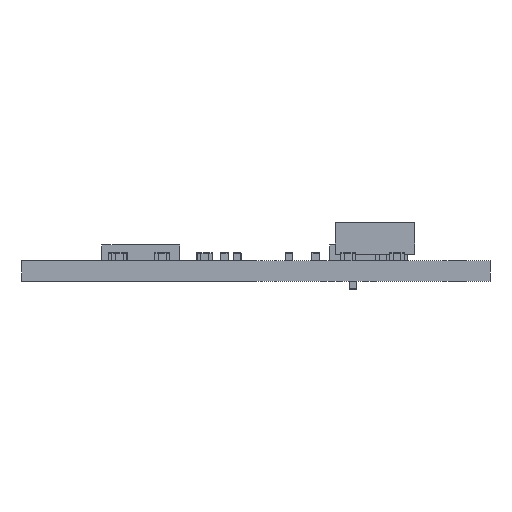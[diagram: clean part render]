
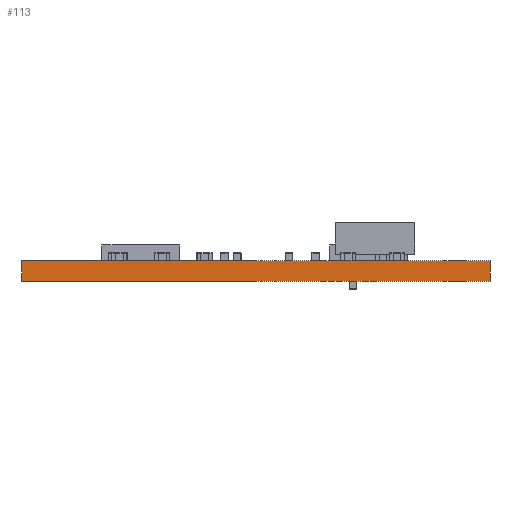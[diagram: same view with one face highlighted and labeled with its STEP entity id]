
A CAD part, front view. The second image highlights one B-rep face of the part: STEP entity #113.
In plain terms, the highlighted planar face has unit normal (0, -1, 0).
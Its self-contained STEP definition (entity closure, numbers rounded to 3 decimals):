
#113 = ADVANCED_FACE('',(#114),#148,.F.);
#114 = FACE_BOUND('',#115,.F.);
#115 = EDGE_LOOP('',(#116,#126,#134,#142));
#116 = ORIENTED_EDGE('',*,*,#117,.T.);
#117 = EDGE_CURVE('',#118,#120,#122,.T.);
#118 = VERTEX_POINT('',#119);
#119 = CARTESIAN_POINT('',(26.313,-0.199,0.));
#120 = VERTEX_POINT('',#121);
#121 = CARTESIAN_POINT('',(26.313,-0.199,0.798));
#122 = LINE('',#123,#124);
#123 = CARTESIAN_POINT('',(26.313,-0.199,0.));
#124 = VECTOR('',#125,1.);
#125 = DIRECTION('',(0.,0.,1.));
#126 = ORIENTED_EDGE('',*,*,#127,.T.);
#127 = EDGE_CURVE('',#120,#128,#130,.T.);
#128 = VERTEX_POINT('',#129);
#129 = CARTESIAN_POINT('',(44.313,-0.199,0.798));
#130 = LINE('',#131,#132);
#131 = CARTESIAN_POINT('',(26.313,-0.199,0.798));
#132 = VECTOR('',#133,1.);
#133 = DIRECTION('',(1.,0.,0.));
#134 = ORIENTED_EDGE('',*,*,#135,.F.);
#135 = EDGE_CURVE('',#136,#128,#138,.T.);
#136 = VERTEX_POINT('',#137);
#137 = CARTESIAN_POINT('',(44.313,-0.199,0.));
#138 = LINE('',#139,#140);
#139 = CARTESIAN_POINT('',(44.313,-0.199,0.));
#140 = VECTOR('',#141,1.);
#141 = DIRECTION('',(0.,0.,1.));
#142 = ORIENTED_EDGE('',*,*,#143,.F.);
#143 = EDGE_CURVE('',#118,#136,#144,.T.);
#144 = LINE('',#145,#146);
#145 = CARTESIAN_POINT('',(26.313,-0.199,0.));
#146 = VECTOR('',#147,1.);
#147 = DIRECTION('',(1.,0.,0.));
#148 = PLANE('',#149);
#149 = AXIS2_PLACEMENT_3D('',#150,#151,#152);
#150 = CARTESIAN_POINT('',(26.313,-0.199,0.));
#151 = DIRECTION('',(0.,1.,0.));
#152 = DIRECTION('',(1.,0.,0.));
